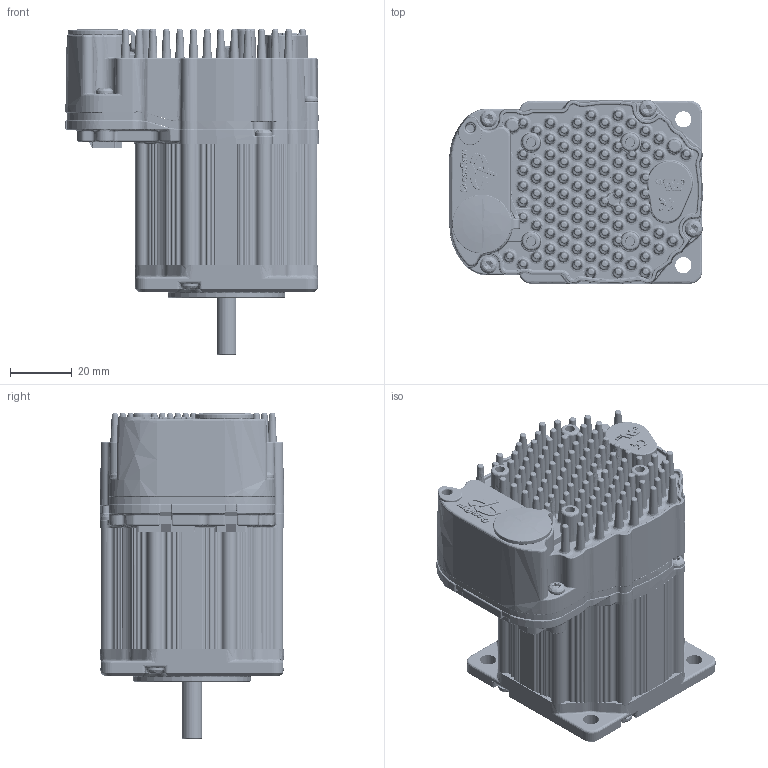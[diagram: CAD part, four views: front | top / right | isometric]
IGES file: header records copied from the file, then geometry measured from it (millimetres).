
Start section: SolidWorks IGES file using analytic representation for surfaces
Global section: file name: C:\TeknicPDM\Clearpath\Customer Downloadable Files\CPM-_ _ _ _ -231x_-Q.IGS; native system: SolidWorks 2020; preprocessor: SolidWorks 2020; author: matt_ciminelli; date: 220623.155135; units: inch
Bounding box: 81.98 x 59.69 x 105.7 mm (x, y, z)
Surface area: 58735.5 mm2 (no closed solid volume)
Topology: 0 solids, 0 shells, 7263 faces, 70884 edges, 70630 vertices
Faces by surface type: revolution 3833, bspline 3430
